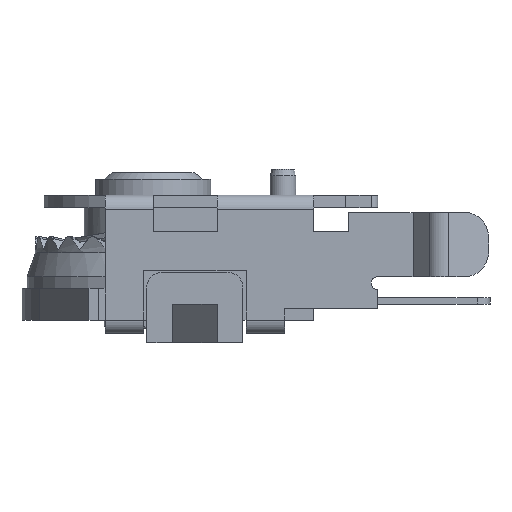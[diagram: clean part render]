
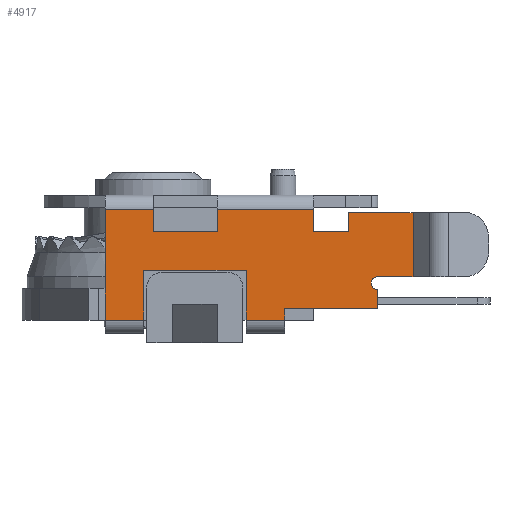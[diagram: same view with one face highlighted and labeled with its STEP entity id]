
A CAD part, left-side view. The second image highlights one B-rep face of the part: STEP entity #4917.
In plain terms, the highlighted planar face has unit normal (-1, 0, 0).
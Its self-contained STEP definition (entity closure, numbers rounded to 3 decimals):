
#4480=CARTESIAN_POINT('',(-4.85,-8.1,1.355));
#4481=VERTEX_POINT('',#4480);
#4512=CARTESIAN_POINT('',(-4.85,-8.1,3.355));
#4513=VERTEX_POINT('',#4512);
#4554=CARTESIAN_POINT('',(-4.85,-8.1,1.355));
#4555=DIRECTION('',(0.0,0.0,1.0));
#4556=VECTOR('',#4555,2.);
#4557=LINE('',#4554,#4556);
#4558=EDGE_CURVE('',#4481,#4513,#4557,.T.);
#4571=CARTESIAN_POINT('',(-4.85,-7.,1.355));
#4572=VERTEX_POINT('',#4571);
#4573=CARTESIAN_POINT('',(-4.85,-8.1,1.355));
#4574=DIRECTION('',(0.0,1.0,0.0));
#4575=VECTOR('',#4574,1.1);
#4576=LINE('',#4573,#4575);
#4577=EDGE_CURVE('',#4481,#4572,#4576,.T.);
#4757=CARTESIAN_POINT('',(-4.85,-3.362,8.212));
#4758=DIRECTION('',(1.0,0.0,0.0));
#4759=DIRECTION('',(0.0,0.0,-1.0));
#4760=AXIS2_PLACEMENT_3D('',#4757,#4758,#4759);
#4761=PLANE('',#4760);
#4762=ORIENTED_EDGE('',*,*,#4558,.T.);
#4763=CARTESIAN_POINT('',(-4.85,-6.1,3.355));
#4764=VERTEX_POINT('',#4763);
#4765=CARTESIAN_POINT('',(-4.85,-6.1,3.355));
#4766=DIRECTION('',(0.0,-1.0,0.0));
#4767=VECTOR('',#4766,2.);
#4768=LINE('',#4765,#4767);
#4769=EDGE_CURVE('',#4764,#4513,#4768,.T.);
#4770=ORIENTED_EDGE('',*,*,#4769,.F.);
#4771=CARTESIAN_POINT('',(-4.85,-6.1,2.755));
#4772=VERTEX_POINT('',#4771);
#4773=CARTESIAN_POINT('',(-4.85,-6.1,2.755));
#4774=DIRECTION('',(0.0,0.0,1.0));
#4775=VECTOR('',#4774,0.6);
#4776=LINE('',#4773,#4775);
#4777=EDGE_CURVE('',#4772,#4764,#4776,.T.);
#4778=ORIENTED_EDGE('',*,*,#4777,.F.);
#4779=CARTESIAN_POINT('',(-4.85,-5.,2.755));
#4780=VERTEX_POINT('',#4779);
#4781=CARTESIAN_POINT('',(-4.85,-5.,2.755));
#4782=DIRECTION('',(0.0,-1.0,0.0));
#4783=VECTOR('',#4782,1.1);
#4784=LINE('',#4781,#4783);
#4785=EDGE_CURVE('',#4780,#4772,#4784,.T.);
#4786=ORIENTED_EDGE('',*,*,#4785,.F.);
#4787=CARTESIAN_POINT('',(-4.85,-5.,3.45));
#4788=VERTEX_POINT('',#4787);
#4789=CARTESIAN_POINT('',(-4.85,-5.,3.45));
#4790=DIRECTION('',(0.0,0.0,-1.0));
#4791=VECTOR('',#4790,0.695);
#4792=LINE('',#4789,#4791);
#4793=EDGE_CURVE('',#4788,#4780,#4792,.T.);
#4794=ORIENTED_EDGE('',*,*,#4793,.F.);
#4795=CARTESIAN_POINT('',(-4.85,-2.,3.45));
#4796=VERTEX_POINT('',#4795);
#4797=CARTESIAN_POINT('',(-4.85,-5.,3.45));
#4798=DIRECTION('',(0.0,1.0,0.0));
#4799=VECTOR('',#4798,3.);
#4800=LINE('',#4797,#4799);
#4801=EDGE_CURVE('',#4788,#4796,#4800,.T.);
#4802=ORIENTED_EDGE('',*,*,#4801,.T.);
#4803=CARTESIAN_POINT('',(-4.85,-2.,2.755));
#4804=VERTEX_POINT('',#4803);
#4805=CARTESIAN_POINT('',(-4.85,-2.,3.45));
#4806=DIRECTION('',(0.0,0.0,-1.0));
#4807=VECTOR('',#4806,0.695);
#4808=LINE('',#4805,#4807);
#4809=EDGE_CURVE('',#4796,#4804,#4808,.T.);
#4810=ORIENTED_EDGE('',*,*,#4809,.T.);
#4811=CARTESIAN_POINT('',(-4.85,0.,2.755));
#4812=VERTEX_POINT('',#4811);
#4813=CARTESIAN_POINT('',(-4.85,-2.,2.755));
#4814=DIRECTION('',(0.0,1.0,0.0));
#4815=VECTOR('',#4814,2.);
#4816=LINE('',#4813,#4815);
#4817=EDGE_CURVE('',#4804,#4812,#4816,.T.);
#4818=ORIENTED_EDGE('',*,*,#4817,.T.);
#4819=CARTESIAN_POINT('',(-4.85,0.,3.45));
#4820=VERTEX_POINT('',#4819);
#4821=CARTESIAN_POINT('',(-4.85,0.,2.755));
#4822=DIRECTION('',(0.0,0.0,1.0));
#4823=VECTOR('',#4822,0.695);
#4824=LINE('',#4821,#4823);
#4825=EDGE_CURVE('',#4812,#4820,#4824,.T.);
#4826=ORIENTED_EDGE('',*,*,#4825,.T.);
#4827=CARTESIAN_POINT('',(-4.85,1.5,3.45));
#4828=VERTEX_POINT('',#4827);
#4829=CARTESIAN_POINT('',(-4.85,0.,3.45));
#4830=DIRECTION('',(0.0,1.0,0.0));
#4831=VECTOR('',#4830,1.5);
#4832=LINE('',#4829,#4831);
#4833=EDGE_CURVE('',#4820,#4828,#4832,.T.);
#4834=ORIENTED_EDGE('',*,*,#4833,.T.);
#4835=CARTESIAN_POINT('',(-4.85,1.5,0.));
#4836=VERTEX_POINT('',#4835);
#4837=CARTESIAN_POINT('',(-4.85,1.5,0.));
#4838=DIRECTION('',(0.0,0.0,1.0));
#4839=VECTOR('',#4838,3.45);
#4840=LINE('',#4837,#4839);
#4841=EDGE_CURVE('',#4836,#4828,#4840,.T.);
#4842=ORIENTED_EDGE('',*,*,#4841,.F.);
#4843=CARTESIAN_POINT('',(-4.85,0.3,0.));
#4844=VERTEX_POINT('',#4843);
#4845=CARTESIAN_POINT('',(-4.85,1.5,0.));
#4846=DIRECTION('',(0.0,-1.0,0.0));
#4847=VECTOR('',#4846,1.2);
#4848=LINE('',#4845,#4847);
#4849=EDGE_CURVE('',#4836,#4844,#4848,.T.);
#4850=ORIENTED_EDGE('',*,*,#4849,.T.);
#4851=CARTESIAN_POINT('',(-4.85,0.3,1.555));
#4852=VERTEX_POINT('',#4851);
#4853=CARTESIAN_POINT('',(-4.85,0.3,1.555));
#4854=DIRECTION('',(0.0,0.0,-1.0));
#4855=VECTOR('',#4854,1.555);
#4856=LINE('',#4853,#4855);
#4857=EDGE_CURVE('',#4852,#4844,#4856,.T.);
#4858=ORIENTED_EDGE('',*,*,#4857,.F.);
#4859=CARTESIAN_POINT('',(-4.85,-2.9,1.555));
#4860=VERTEX_POINT('',#4859);
#4861=CARTESIAN_POINT('',(-4.85,-2.9,1.555));
#4862=DIRECTION('',(0.0,1.0,0.0));
#4863=VECTOR('',#4862,3.2);
#4864=LINE('',#4861,#4863);
#4865=EDGE_CURVE('',#4860,#4852,#4864,.T.);
#4866=ORIENTED_EDGE('',*,*,#4865,.F.);
#4867=CARTESIAN_POINT('',(-4.85,-2.9,0.));
#4868=VERTEX_POINT('',#4867);
#4869=CARTESIAN_POINT('',(-4.85,-2.9,0.));
#4870=DIRECTION('',(0.0,0.0,1.0));
#4871=VECTOR('',#4870,1.555);
#4872=LINE('',#4869,#4871);
#4873=EDGE_CURVE('',#4868,#4860,#4872,.T.);
#4874=ORIENTED_EDGE('',*,*,#4873,.F.);
#4875=CARTESIAN_POINT('',(-4.85,-4.1,0.));
#4876=VERTEX_POINT('',#4875);
#4877=CARTESIAN_POINT('',(-4.85,-2.9,0.));
#4878=DIRECTION('',(0.0,-1.0,0.0));
#4879=VECTOR('',#4878,1.2);
#4880=LINE('',#4877,#4879);
#4881=EDGE_CURVE('',#4868,#4876,#4880,.T.);
#4882=ORIENTED_EDGE('',*,*,#4881,.T.);
#4883=CARTESIAN_POINT('',(-4.85,-4.1,0.355));
#4884=VERTEX_POINT('',#4883);
#4885=CARTESIAN_POINT('',(-4.85,-4.1,0.355));
#4886=DIRECTION('',(0.0,0.0,-1.0));
#4887=VECTOR('',#4886,0.355);
#4888=LINE('',#4885,#4887);
#4889=EDGE_CURVE('',#4884,#4876,#4888,.T.);
#4890=ORIENTED_EDGE('',*,*,#4889,.F.);
#4891=CARTESIAN_POINT('',(-4.85,-7.,0.355));
#4892=VERTEX_POINT('',#4891);
#4893=CARTESIAN_POINT('',(-4.85,-7.,0.355));
#4894=DIRECTION('',(0.0,1.0,0.0));
#4895=VECTOR('',#4894,2.9);
#4896=LINE('',#4893,#4895);
#4897=EDGE_CURVE('',#4892,#4884,#4896,.T.);
#4898=ORIENTED_EDGE('',*,*,#4897,.F.);
#4899=CARTESIAN_POINT('',(-4.85,-7.,0.955));
#4900=VERTEX_POINT('',#4899);
#4901=CARTESIAN_POINT('',(-4.85,-7.,0.955));
#4902=DIRECTION('',(0.0,0.0,-1.0));
#4903=VECTOR('',#4902,0.6);
#4904=LINE('',#4901,#4903);
#4905=EDGE_CURVE('',#4900,#4892,#4904,.T.);
#4906=ORIENTED_EDGE('',*,*,#4905,.F.);
#4907=CARTESIAN_POINT('',(-4.85,-7.,1.155));
#4908=DIRECTION('',(-1.0,0.0,0.0));
#4909=DIRECTION('',(0.0,0.0,1.0));
#4910=AXIS2_PLACEMENT_3D('',#4907,#4908,#4909);
#4911=CIRCLE('',#4910,0.2);
#4912=EDGE_CURVE('',#4572,#4900,#4911,.T.);
#4913=ORIENTED_EDGE('',*,*,#4912,.F.);
#4914=ORIENTED_EDGE('',*,*,#4577,.F.);
#4915=EDGE_LOOP('',(#4762,#4770,#4778,#4786,#4794,#4802,#4810,#4818,#4826,#4834,#4842,#4850,#4858,#4866,#4874,#4882,#4890,#4898,#4906,#4913,#4914));
#4916=FACE_OUTER_BOUND('',#4915,.T.);
#4917=ADVANCED_FACE('',(#4916),#4761,.F.);
